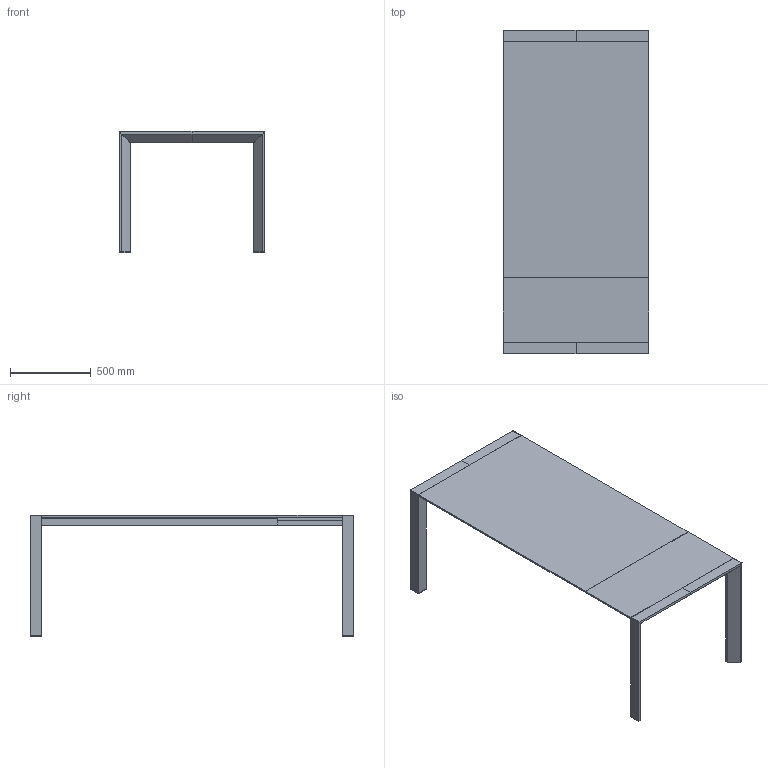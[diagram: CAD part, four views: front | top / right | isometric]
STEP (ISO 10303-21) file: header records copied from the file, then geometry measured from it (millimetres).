
FILE_DESCRIPTION(/* description */ (''),/* implementation_level */ '2;1');
FILE_NAME(/* name */ '10668 - Afill 160+40x90',/* time_stamp */ '2010-11-03T15:12:48+01:00',/* author */ (''),/* organization */ (''),/* preprocessor_version */ 'ST-DEVELOPER v10',/* originating_system */ '',/* authorisation */ '');
FILE_SCHEMA (('CONFIG_CONTROL_DESIGN'));
Length unit declared in the file: centimetre
Products named in the file (1): 1
Bounding box: 902.24 x 2000.6 x 751.1 mm (x, y, z)
Volume: 46269639.8 mm3; surface area: 6668003.2 mm2
Topology: 14 solids, 14 shells, 166 faces, 380 edges, 250 vertices
Faces by surface type: plane 166
Entity records: 4198 total; most frequent: CARTESIAN_POINT 1298, ORIENTED_EDGE 760, EDGE_CURVE 380, B_SPLINE_CURVE_WITH_KNOTS 380, VERTEX_POINT 250, EDGE_LOOP 174, DIRECTION 170, AXIS2_PLACEMENT_3D 168
